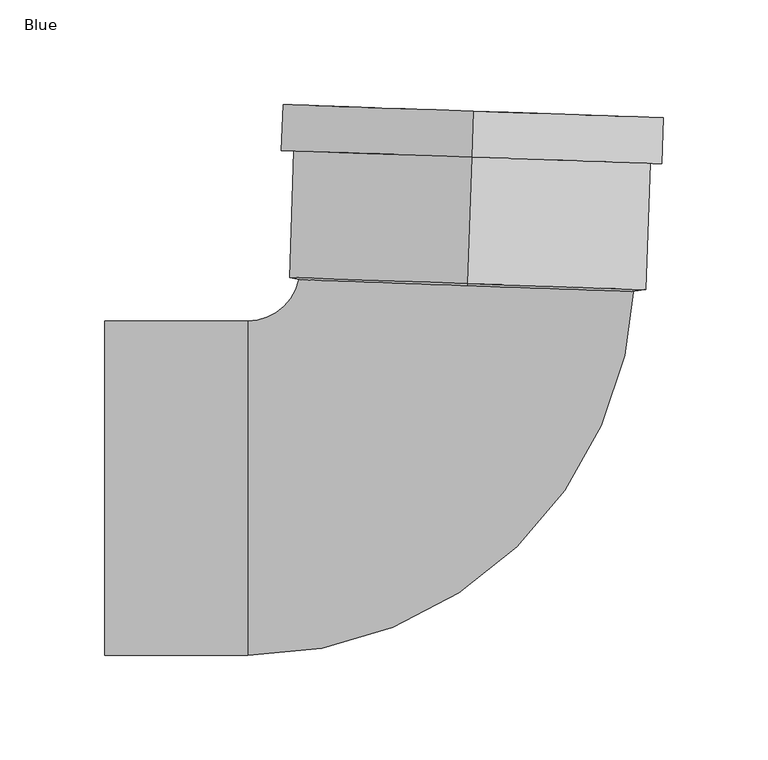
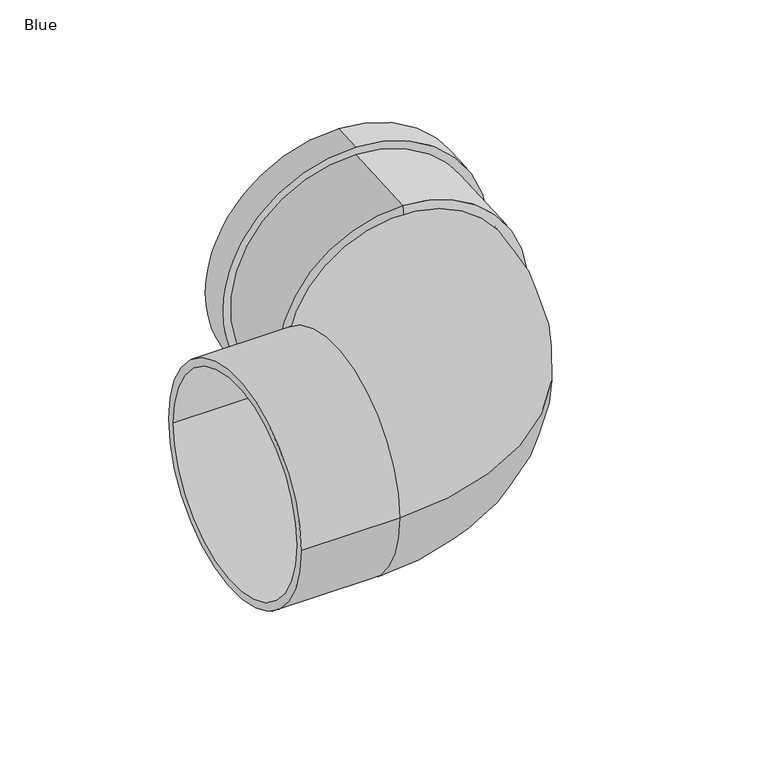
"""IFC4 building model written with IfcOpenShell, lengths in millimetres: pipe fitting geometry, AWADUKT PP SN10 Bend : Blue."""

import ifcopenshell
import ifcopenshell.guid

model = None  # the IFC model being written
_history = None  # IfcOwnerHistory: only IFC2X3 demands one
_inside = {}  # id of a spatial element -> (the spatial element, [elements in it])
_under = {}  # id of a project, library or spatial element -> (it, [spatial elements below it])
_declared = {}  # id of a project -> (the project, [libraries it declares])
_typed = {}  # id of a type object -> (the type object, [elements of that type])
_made_of = {}  # id of a material, layer set ... -> (it, [elements and type objects made of it])


def new_model(schema):
    """Start an empty IFC model of exactly this schema.

    Asked for "IFC4X3", IfcOpenShell would pick the latest addendum, in which some entities
    have other attributes; the version numbers below select the first issue.
    IFC2X3 requires an IfcOwnerHistory on every rooted entity: one is made here for all.
    """
    global model, _history
    if schema == "IFC4X3":
        model = ifcopenshell.file(schema_version=(4, 3, 0, 0))
    else:
        model = ifcopenshell.file(schema=schema)
    _inside.clear()
    _under.clear()
    _declared.clear()
    _typed.clear()
    _made_of.clear()
    _history = None
    if model.schema == "IFC2X3":
        org = make("IfcOrganization", Name="unknown")
        user = make(
            "IfcPersonAndOrganization",
            ThePerson=make("IfcPerson", FamilyName="unknown"),
            TheOrganization=org,
        )
        app = make(
            "IfcApplication",
            ApplicationDeveloper=org,
            Version="unknown",
            ApplicationFullName="unknown",
            ApplicationIdentifier="unknown",
        )
        _history = make(
            "IfcOwnerHistory",
            OwningUser=user,
            OwningApplication=app,
            ChangeAction="ADDED",
            CreationDate=0,
        )
    return model


def make(cls, **values):
    """One entity of the class cls with the attributes given. An attribute that is None is left unset."""
    return model.create_entity(
        cls, **{name: value for name, value in values.items() if value is not None}
    )


def rooted(cls, **values):
    """An entity with a GlobalId (a new one), such as an element, a storey or a relation."""
    return make(cls, GlobalId=ifcopenshell.guid.new(), OwnerHistory=_history, **values)


def si_unit(unit_type, name, prefix=None):
    """IfcSIUnit, for example si_unit("LENGTHUNIT", "METRE", prefix="MILLI")."""
    return make("IfcSIUnit", UnitType=unit_type, Prefix=prefix, Name=name)


def assignment(units):
    """IfcUnitAssignment: the units of a project."""
    return None if units is None else make("IfcUnitAssignment", Units=units)


def point(xyz):
    """IfcCartesianPoint."""
    return None if xyz is None else make("IfcCartesianPoint", Coordinates=xyz)


def direction(xyz):
    """IfcDirection."""
    return None if xyz is None else make("IfcDirection", DirectionRatios=xyz)


def frame(location, z_axis=None, x_axis=None):
    """IfcAxis2Placement3D, a coordinate frame: its origin and axes. An axis left out is left unset."""
    return make(
        "IfcAxis2Placement3D",
        Location=point(location),
        Axis=direction(z_axis),
        RefDirection=direction(x_axis),
    )


def origin():
    """The frame at (0, 0, 0) with its axes left unset."""
    return frame((0.0, 0.0, 0.0))


def place(relative_to, where):
    """IfcLocalPlacement: puts the frame where relative to a parent placement (None: the world)."""
    return make(
        "IfcLocalPlacement", PlacementRelTo=relative_to, RelativePlacement=where
    )


def context(
    kind, dimensions, precision=None, world=None, true_north=None, identifier=None
):
    """IfcGeometricRepresentationContext, for example the 3D "Model" context."""
    return make(
        "IfcGeometricRepresentationContext",
        ContextIdentifier=identifier,
        ContextType=kind,
        CoordinateSpaceDimension=dimensions,
        Precision=precision,
        WorldCoordinateSystem=world,
        TrueNorth=true_north,
    )


def project(units=None, contexts=None):
    """IfcProject with its units and contexts."""
    return rooted(
        "IfcProject",
        Name="project",
        RepresentationContexts=contexts,
        UnitsInContext=assignment(units),
    )


def spatial(cls, under=None, at=None, **own):
    """A site, building, storey or space (cls), placed at a placement, below another one or the project."""
    s = rooted(cls, ObjectPlacement=at, **own)
    if under is not None:
        _under.setdefault(under.id(), (under, []))[1].append(s)
    return s


def polyline(points):
    """IfcPolyline through the points."""
    return make("IfcPolyline", Points=[point(p) for p in points])


def circle_curve(where, radius):
    """IfcCircle in the frame where."""
    return make("IfcCircle", Position=where, Radius=radius)


def ellipse_curve(where, semi_axis1, semi_axis2):
    """IfcEllipse in the frame where."""
    return make(
        "IfcEllipse", Position=where, SemiAxis1=semi_axis1, SemiAxis2=semi_axis2
    )


def trimmed(basis, trim1, trim2, sense, master):
    """IfcTrimmedCurve: the piece of a basis curve between two trims."""
    return make(
        "IfcTrimmedCurve",
        BasisCurve=basis,
        Trim1=trim1,
        Trim2=trim2,
        SenseAgreement=sense,
        MasterRepresentation=master,
    )


def shape(context_of_items, identifier, shape_type, items):
    """IfcShapeRepresentation: the items that make up one representation, for example the "Body"."""
    return make(
        "IfcShapeRepresentation",
        ContextOfItems=context_of_items,
        RepresentationIdentifier=identifier,
        RepresentationType=shape_type,
        Items=items,
    )


def source(mapping_origin, context_of_items, identifier, shape_type, items):
    """IfcRepresentationMap: a shape defined once, which mapped items show again and again."""
    return make(
        "IfcRepresentationMap",
        MappingOrigin=mapping_origin,
        MappedRepresentation=shape(context_of_items, identifier, shape_type, items),
    )


def transform(
    local_origin,
    x_axis=None,
    y_axis=None,
    z_axis=None,
    scale=None,
    scale2=None,
    scale3=None,
    uniform=True,
):
    """IfcCartesianTransformationOperator3D, or its non-uniform kind. x_axis, y_axis, z_axis: its Axis1, 2, 3."""
    if uniform:
        return make(
            "IfcCartesianTransformationOperator3D",
            Axis1=direction(x_axis),
            Axis2=direction(y_axis),
            LocalOrigin=point(local_origin),
            Scale=scale,
            Axis3=direction(z_axis),
        )
    return make(
        "IfcCartesianTransformationOperator3DnonUniform",
        Axis1=direction(x_axis),
        Axis2=direction(y_axis),
        LocalOrigin=point(local_origin),
        Scale=scale,
        Axis3=direction(z_axis),
        Scale2=scale2,
        Scale3=scale3,
    )


def mapped(mapping_source, mapping_target):
    """IfcMappedItem: shows the shape of a source again, moved by a transform."""
    return make(
        "IfcMappedItem", MappingSource=mapping_source, MappingTarget=mapping_target
    )


def made_of(thing, what):
    """Note that an element or type object is made of a material, layer set ...; save() writes the relation."""
    if what is not None:
        _made_of.setdefault(what.id(), (what, []))[1].append(thing)
    return thing


def element(
    cls,
    number,
    at=None,
    inside=None,
    cuts=None,
    type_object=None,
    material=None,
    context=None,
    identifier="Body",
    shape_type=None,
    held_by="IfcProductDefinitionShape",
    body=None,
    shapes=None,
    **own,
):
    """One element of the class cls, such as IfcWall. Its Tag is "e" and its number.

    at: its placement. inside: the storey or other place that contains it. cuts: it is an
    opening in that element (IfcRelVoidsElement). A single representation is given by context,
    identifier, shape_type and body (its items); several are given by shapes. held_by: the class
    of the entity that holds the representations. save() writes the other relations.
    """
    e = rooted(cls, Tag="e%d" % number, ObjectPlacement=at, **own)
    if body is not None:
        shapes = [shape(context, identifier, shape_type, body)]
    if shapes is not None:
        e.Representation = make(held_by, Representations=shapes)
    if inside is not None:
        _inside.setdefault(inside.id(), (inside, []))[1].append(e)
    if cuts is not None:
        rooted(
            "IfcRelVoidsElement", RelatingBuildingElement=cuts, RelatedOpeningElement=e
        )
    if type_object is not None:
        _typed.setdefault(type_object.id(), (type_object, []))[1].append(e)
    return made_of(e, material)


def aggregate(whole, parts):
    """IfcRelAggregates: a whole, such as a stair, and the parts it consists of."""
    return rooted("IfcRelAggregates", RelatingObject=whole, RelatedObjects=parts)


def save(model, path):
    """Write the relations noted so far, then the file.

    IfcRelAggregates (storeys below a building ...), IfcRelContainedInSpatialStructure (elements
    in a storey), IfcRelDefinesByType, IfcRelAssociatesMaterial and IfcRelDeclares: one each for
    every whole, place, type object, material and project.
    """
    for whole, parts in _under.values():
        aggregate(whole, parts)
    for where, things in _inside.values():
        rooted(
            "IfcRelContainedInSpatialStructure",
            RelatedElements=things,
            RelatingStructure=where,
        )
    for kind, things in _typed.values():
        rooted("IfcRelDefinesByType", RelatedObjects=things, RelatingType=kind)
    for what, things in _made_of.values():
        rooted("IfcRelAssociatesMaterial", RelatedObjects=things, RelatingMaterial=what)
    for by, libraries in _declared.values():
        rooted("IfcRelDeclares", RelatingContext=by, RelatedDefinitions=libraries)
    model.write(path)


def plane_surface(at):
    """IfcPlane: the flat surface through the origin of the frame at, square to its z axis."""
    return make("IfcPlane", Position=at)


def cylinder_surface(at, radius):
    """IfcCylindricalSurface: all points at the distance radius from the z axis of the frame at."""
    return make("IfcCylindricalSurface", Position=at, Radius=radius)


def revolved_surface(curve, axis_point, axis_direction):
    """IfcSurfaceOfRevolution: the curve turned about the line through axis_point along axis_direction."""
    return make(
        "IfcSurfaceOfRevolution",
        SweptCurve=make("IfcArbitraryOpenProfileDef", ProfileType="CURVE", Curve=curve),
        AxisPosition=make("IfcAxis1Placement", Location=point(axis_point), Axis=direction(axis_direction)),
    )


def advanced_brep(points, edges, surfaces, faces):
    """IfcAdvancedBrep: a solid bounded by faces that lie on surfaces and meet in shared edges.

    An edge is (start, end): straight between two places in points (the first is 0);
    or (start, end, curve); or (start, end, curve, False) where it runs against its curve.
    A face is (place in surfaces, loops), or (place, loops, False) where it looks against
    its surface's normal. A loop lists edges by number (the first is 1), with a minus sign
    where the edge is run from its end to its start. The first loop is the outer one.
    """
    corners = [point(p) for p in points]
    vertices = [make("IfcVertexPoint", VertexGeometry=c) for c in corners]
    made = []
    for start, end, *more in edges:
        made.append(
            make(
                "IfcEdgeCurve",
                EdgeStart=vertices[start],
                EdgeEnd=vertices[end],
                EdgeGeometry=more[0] if more else make("IfcPolyline", Points=[corners[start], corners[end]]),
                SameSense=more[1] if len(more) > 1 else True,
            )
        )
    hull = []
    for where, loops, *sense in faces:
        bounds = []
        for j, loop in enumerate(loops):
            ring = [make("IfcOrientedEdge", EdgeElement=made[abs(k) - 1], Orientation=k > 0) for k in loop]
            bounds.append(
                make(
                    "IfcFaceOuterBound" if j == 0 else "IfcFaceBound",
                    Bound=make("IfcEdgeLoop", EdgeList=ring),
                    Orientation=True,
                )
            )
        hull.append(make("IfcAdvancedFace", Bounds=bounds, FaceSurface=surfaces[where], SameSense=sense[0] if sense else True))
    return make("IfcAdvancedBrep", Outer=make("IfcClosedShell", CfsFaces=hull))


def blue_55e6ac91(model_context):
    return source(origin(), model_context, "Body", "AdvancedBrep", [
        advanced_brep(
        [(5.5315702, 158.4034461, 85.5), (5.5315702, 158.4034461, -85.5), (3.4185715, 97.895079, -85.5), (3.4185715, 97.895079, 85.5), (6.2993592, 180.3900443, 91.0), (6.2993592, 180.3900443, -91.0), (5.5315702, 158.4034461, -91.0), (5.5315702, 158.4034461, 91.0), (6.1074119, 174.8933947, 80.0), (6.1074119, 174.8933947, -80.0), (6.2993592, 180.3900443, -80.0), (6.2993592, 180.3900443, 80.0), (5.7235175, 163.9000956, 85.5), (5.7235175, 163.9000956, -85.5), (6.1074119, 174.8933947, -85.5), (6.1074119, 174.8933947, 85.5), (3.5796343, 102.5073156, 80.0), (3.5796343, 102.5073156, -80.0), (5.7235175, 163.9000956, -80.0), (5.7235175, 163.9000956, 80.0), (3.5457889, 101.538108, 74.5), (3.5457889, 101.538108, -74.5), (3.3508805, 95.9566638, 74.5), (3.3508805, 95.9566638, -74.5)],
        [
            (0, 1, circle_curve(frame((5.5315702, 158.4034461, 0.0), z_axis=(-0.034899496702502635, -0.9993908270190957, 0.0), x_axis=(0.0, 0.0, -1.0)), 85.5)),
            (1, 2),
            (2, 3, circle_curve(frame((3.4185715, 97.895079, 0.0), z_axis=(0.034899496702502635, 0.9993908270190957, 0.0), x_axis=(0.0, 0.0, -1.0)), 85.5)),
            (3, 0),
            (4, 5, circle_curve(frame((6.2993592, 180.3900443, 0.0), z_axis=(-0.034899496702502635, -0.9993908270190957, 0.0), x_axis=(0.0, 0.0, -1.0)), 91.0)),
            (5, 6),
            (6, 7, circle_curve(frame((5.5315702, 158.4034461, 0.0), z_axis=(0.034899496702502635, 0.9993908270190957, 0.0), x_axis=(0.0, 0.0, -1.0)), 91.0)),
            (7, 4),
            (8, 9, circle_curve(frame((6.1074119, 174.8933947, 0.0), z_axis=(-0.034899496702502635, -0.9993908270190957, 0.0), x_axis=(0.0, 0.0, -1.0)), 80.0)),
            (9, 10),
            (10, 11, circle_curve(frame((6.2993592, 180.3900443, 0.0), z_axis=(0.034899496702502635, 0.9993908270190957, 0.0), x_axis=(0.0, 0.0, -1.0)), 80.0)),
            (11, 8),
            (12, 13, circle_curve(frame((5.7235175, 163.9000956, 0.0), z_axis=(-0.034899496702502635, -0.9993908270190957, 0.0), x_axis=(0.0, 0.0, -1.0)), 85.5)),
            (13, 14),
            (14, 15, circle_curve(frame((6.1074119, 174.8933947, 0.0), z_axis=(0.034899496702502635, 0.9993908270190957, 0.0), x_axis=(0.0, 0.0, -1.0)), 85.5)),
            (15, 12),
            (16, 17, circle_curve(frame((3.5796343, 102.5073156, 0.0), z_axis=(-0.034899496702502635, -0.9993908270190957, 0.0), x_axis=(0.0, 0.0, -1.0)), 80.0)),
            (17, 18),
            (18, 19, circle_curve(frame((5.7235175, 163.9000956, 0.0), z_axis=(0.034899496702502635, 0.9993908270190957, 0.0), x_axis=(0.0, 0.0, -1.0)), 80.0)),
            (19, 16),
            (20, 21, circle_curve(frame((3.5457889, 101.538108, 0.0), z_axis=(-0.034899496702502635, -0.9993908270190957, 0.0), x_axis=(0.0, 0.0, -1.0)), 74.5)),
            (21, 17),
            (16, 20),
            (22, 23, circle_curve(frame((3.3508805, 95.9566638, 0.0), z_axis=(-0.034899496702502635, -0.9993908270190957, 0.0), x_axis=(0.0, 0.0, -1.0)), 74.5)),
            (23, 21),
            (20, 22),
            (2, 23),
            (22, 3),
            (1, 0, circle_curve(frame((5.5315702, 158.4034461, 0.0), z_axis=(-0.034899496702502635, -0.9993908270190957, 0.0), x_axis=(0.0, 0.0, 1.0)), 85.5)),
            (3, 2, circle_curve(frame((3.4185715, 97.895079, 0.0), z_axis=(0.034899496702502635, 0.9993908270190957, 0.0), x_axis=(0.0, 0.0, 1.0)), 85.5)),
            (6, 7, circle_curve(frame((5.5315702, 158.4034461, 0.0), z_axis=(-0.034899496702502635, -0.9993908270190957, 0.0), x_axis=(0.0, 0.0, 1.0)), 91.0)),
            (5, 4, circle_curve(frame((6.2993592, 180.3900443, 0.0), z_axis=(-0.034899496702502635, -0.9993908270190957, 0.0), x_axis=(0.0, 0.0, 1.0)), 91.0)),
            (10, 11, circle_curve(frame((6.2993592, 180.3900443, 0.0), z_axis=(-0.034899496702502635, -0.9993908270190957, 0.0), x_axis=(0.0, 0.0, 1.0)), 80.0)),
            (9, 8, circle_curve(frame((6.1074119, 174.8933947, 0.0), z_axis=(-0.034899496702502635, -0.9993908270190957, 0.0), x_axis=(0.0, 0.0, 1.0)), 80.0)),
            (14, 15, circle_curve(frame((6.1074119, 174.8933947, 0.0), z_axis=(-0.034899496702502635, -0.9993908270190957, 0.0), x_axis=(0.0, 0.0, 1.0)), 85.5)),
            (13, 12, circle_curve(frame((5.7235175, 163.9000956, 0.0), z_axis=(-0.034899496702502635, -0.9993908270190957, 0.0), x_axis=(0.0, 0.0, 1.0)), 85.5)),
            (18, 19, circle_curve(frame((5.7235175, 163.9000956, 0.0), z_axis=(-0.034899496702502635, -0.9993908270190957, 0.0), x_axis=(0.0, 0.0, 1.0)), 80.0)),
            (17, 16, circle_curve(frame((3.5796343, 102.5073156, 0.0), z_axis=(-0.034899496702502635, -0.9993908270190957, 0.0), x_axis=(0.0, 0.0, 1.0)), 80.0)),
            (21, 20, circle_curve(frame((3.5457889, 101.538108, 0.0), z_axis=(-0.034899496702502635, -0.9993908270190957, 0.0), x_axis=(0.0, 0.0, 1.0)), 74.5)),
            (23, 22, circle_curve(frame((3.3508805, 95.9566638, 0.0), z_axis=(-0.034899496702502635, -0.9993908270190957, 0.0), x_axis=(0.0, 0.0, 1.0)), 74.5)),
        ],
        [
            cylinder_surface(frame((3.5457889, 101.538108, 0.0), z_axis=(0.034899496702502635, 0.9993908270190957, 0.0), x_axis=(0.0, 0.0, -1.0)), 85.5),
            cylinder_surface(frame((3.5457889, 101.538108, 0.0), z_axis=(0.034899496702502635, 0.9993908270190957, 0.0), x_axis=(0.0, 0.0, -1.0)), 91.0),
            revolved_surface(polyline([(6.299359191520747, 180.3900443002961, -80.0), (6.107411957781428, 174.89339469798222, -80.0)]), (3.5457889, 101.538108, 0.0), (0.034899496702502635, 0.9993908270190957, 0.0)),
            revolved_surface(polyline([(6.107411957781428, 174.89339469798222, -85.5), (5.723517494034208, 163.90009560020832, -85.5)]), (3.5457889, 101.538108, 0.0), (0.034899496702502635, 0.9993908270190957, 0.0)),
            revolved_surface(polyline([(5.723517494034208, 163.90009560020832, -80.0), (3.579634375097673, 102.50731559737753, -80.0)]), (3.5457889, 101.538108, 0.0), (0.034899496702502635, 0.9993908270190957, 0.0)),
            revolved_surface(polyline([(3.5796343, 102.5073156, -80.0), (3.5457889, 101.538108, -74.5)]), (3.5457889, 101.538108, 0.0), (0.034899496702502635, 0.9993908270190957, 0.0)),
            revolved_surface(polyline([(3.5457889, 101.538108, -74.5), (3.3508805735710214, 95.95666379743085, -74.5)]), (3.5457889, 101.538108, 0.0), (0.034899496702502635, 0.9993908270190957, 0.0)),
            revolved_surface(polyline([(3.3508805, 95.9566638, -74.5), (3.4185715, 97.895079, -85.5)]), (3.5457889, 101.538108, 0.0), (0.034899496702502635, 0.9993908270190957, 0.0)),
            cylinder_surface(frame((3.5457889, 101.538108, 0.0), z_axis=(0.034899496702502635, 0.9993908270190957, 0.0), x_axis=(0.0, 0.0, 1.0)), 85.5),
            plane_surface(frame((5.5315702, 158.4034461, 0.0), z_axis=(-0.034899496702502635, -0.9993908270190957, 0.0), x_axis=(0.0, 0.0, 1.0))),
            cylinder_surface(frame((3.5457889, 101.538108, 0.0), z_axis=(0.034899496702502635, 0.9993908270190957, 0.0), x_axis=(0.0, 0.0, 1.0)), 91.0),
            plane_surface(frame((6.2993592, 180.3900443, 0.0), z_axis=(0.034899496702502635, 0.9993908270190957, 0.0), x_axis=(0.0, 0.0, 1.0))),
            revolved_surface(polyline([(6.299359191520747, 180.3900443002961, 80.0), (6.107411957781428, 174.89339469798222, 80.0)]), (3.5457889, 101.538108, 0.0), (0.034899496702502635, 0.9993908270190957, 0.0)),
            plane_surface(frame((6.1074119, 174.8933947, 0.0), z_axis=(-0.034899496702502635, -0.9993908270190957, 0.0), x_axis=(0.0, 0.0, 1.0))),
            revolved_surface(polyline([(6.107411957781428, 174.89339469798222, 85.5), (5.723517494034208, 163.90009560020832, 85.5)]), (3.5457889, 101.538108, 0.0), (0.034899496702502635, 0.9993908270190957, 0.0)),
            plane_surface(frame((5.7235175, 163.9000956, 0.0), z_axis=(0.034899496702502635, 0.9993908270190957, 0.0), x_axis=(0.0, 0.0, 1.0))),
            revolved_surface(polyline([(5.723517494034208, 163.90009560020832, 80.0), (3.579634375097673, 102.50731559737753, 80.0)]), (3.5457889, 101.538108, 0.0), (0.034899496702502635, 0.9993908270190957, 0.0)),
            revolved_surface(polyline([(3.5796343, 102.5073156, 80.0), (3.5457889, 101.538108, 74.5)]), (3.5457889, 101.538108, 0.0), (0.034899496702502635, 0.9993908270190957, 0.0)),
            revolved_surface(polyline([(3.5457889, 101.538108, 74.5), (3.3508805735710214, 95.95666379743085, 74.5)]), (3.5457889, 101.538108, 0.0), (0.034899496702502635, 0.9993908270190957, 0.0)),
            revolved_surface(polyline([(3.3508805, 95.9566638, 74.5), (3.4185715, 97.895079, 85.5)]), (3.5457889, 101.538108, 0.0), (0.034899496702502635, 0.9993908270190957, 0.0)),
        ],
        [
            (0, [[1, 2, 3, 4]]),
            (1, [[5, 6, 7, 8]]),
            (2, [[9, 10, 11, 12]]),
            (3, [[13, 14, 15, 16]]),
            (4, [[17, 18, 19, 20]]),
            (5, [[21, 22, -17, 23]]),
            (6, [[24, 25, -21, 26]]),
            (7, [[-3, 27, -24, 28]]),
            (8, [[29, -4, 30, -2]]),
            (9, [[31, -7], [-29, -1]]),
            (10, [[32, -8, -31, -6]]),
            (11, [[-32, -5], [33, -11]]),
            (12, [[34, -12, -33, -10]]),
            (13, [[35, -15], [-34, -9]]),
            (14, [[36, -16, -35, -14]]),
            (15, [[-36, -13], [37, -19]]),
            (16, [[38, -20, -37, -18]]),
            (17, [[39, -23, -38, -22]]),
            (18, [[40, -26, -39, -25]]),
            (19, [[-30, -28, -40, -27]]),
        ],
    ),
        advanced_brep(
        [(-170.0, -80.0, 0.0), (-170.0, 80.0, 0.0), (-170.0, -74.5, 0.0), (-170.0, 74.5, 0.0), (83.497055, 98.7461483, 0.0), (-76.4054773, 104.3300678, 0.0), (78.0004055, 98.9380955, 0.0), (-70.9088277, 104.1381205, 0.0), (-101.6, -74.5, 0.0), (-101.6, 74.5, 0.0), (-101.6, -80.0, 0.0), (-101.6, 80.0, 0.0)],
        [
            (0, 1, circle_curve(frame((-170.0, 0.0, 0.0), z_axis=(-1.0, 0.0, 0.0), x_axis=(0.0, 1.0, 0.0)), 80.0)),
            (1, 0, circle_curve(frame((-170.0, 0.0, 0.0), z_axis=(-1.0, 0.0, 0.0), x_axis=(0.0, 1.0, 0.0)), 80.0)),
            (2, 3, circle_curve(frame((-170.0, 0.0, 0.0), z_axis=(1.0, 0.0, 0.0), x_axis=(0.0, 1.0, 0.0)), 74.5)),
            (3, 2, circle_curve(frame((-170.0, 0.0, 0.0), z_axis=(1.0, 0.0, 0.0), x_axis=(0.0, 1.0, 0.0)), 74.5)),
            (4, 5, circle_curve(frame((3.5457889, 101.538108, 0.0), z_axis=(0.03489949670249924, 0.9993908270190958, 0.0), x_axis=(-0.9993908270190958, 0.03489949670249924, 0.0)), 80.0)),
            (5, 4, circle_curve(frame((3.5457889, 101.538108, 0.0), z_axis=(0.03489949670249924, 0.9993908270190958, 0.0), x_axis=(-0.9993908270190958, 0.03489949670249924, 0.0)), 80.0)),
            (6, 7, circle_curve(frame((3.5457889, 101.538108, 0.0), z_axis=(-0.03489949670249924, -0.9993908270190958, 0.0), x_axis=(-0.9993908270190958, 0.03489949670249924, 0.0)), 74.5)),
            (7, 6, circle_curve(frame((3.5457889, 101.538108, 0.0), z_axis=(-0.03489949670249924, -0.9993908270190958, 0.0), x_axis=(-0.9993908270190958, 0.03489949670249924, 0.0)), 74.5)),
            (2, 8),
            (8, 9, circle_curve(frame((-101.6, 0.0, 0.0), z_axis=(1.0, 0.0, 0.0), x_axis=(0.0, 1.0, 0.0)), 74.5)),
            (9, 3),
            (9, 8, circle_curve(frame((-101.6, 0.0, 0.0), z_axis=(1.0, 0.0, 0.0), x_axis=(0.0, 1.0, 0.0)), 74.5)),
            (0, 10),
            (10, 11, circle_curve(frame((-101.6, 0.0, 0.0), z_axis=(-1.0, 0.0, 0.0), x_axis=(0.0, 1.0, 0.0)), 80.0)),
            (11, 1),
            (11, 10, circle_curve(frame((-101.6, 0.0, 0.0), z_axis=(-1.0, 0.0, 0.0), x_axis=(0.0, 1.0, 0.0)), 80.0)),
            (7, 9, circle_curve(frame((-101.6, 105.2098799, 0.0), z_axis=(0.0, 0.0, -1.0), x_axis=(0.0, -1.0, 0.0)), 30.7098799)),
            (8, 6, circle_curve(frame((-101.6, 105.2098799, 0.0), z_axis=(0.0, 0.0, 1.0), x_axis=(0.0, -1.0, 0.0)), 179.7098799)),
            (5, 11, circle_curve(frame((-101.6, 105.2098799, 0.0), z_axis=(0.0, 0.0, -1.0), x_axis=(0.0, -1.0, 0.0)), 25.2098799)),
            (10, 4, circle_curve(frame((-101.6, 105.2098799, 0.0), z_axis=(0.0, 0.0, 1.0), x_axis=(0.0, -1.0, 0.0)), 185.2098799)),
        ],
        [
            plane_surface(frame((-170.0, 0.0, 0.0), z_axis=(-1.0, 0.0, 0.0), x_axis=(0.0, 0.0, 1.0))),
            plane_surface(frame((3.5457889, 101.538108, 0.0), z_axis=(0.03489949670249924, 0.9993908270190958, 0.0), x_axis=(0.0, 0.0, 1.0))),
            revolved_surface(polyline([(-101.6, 74.5, 0.0), (-170.0, 74.5, 0.0)]), (-170.0, 0.0, 0.0), (1.0, 0.0, 0.0)),
            cylinder_surface(frame((-170.0, 0.0, 0.0), z_axis=(-1.0, 0.0, 0.0), x_axis=(0.0, 1.0, 0.0)), 80.0),
            revolved_surface(trimmed(ellipse_curve(frame((-101.6, 0.0, 0.0), z_axis=(1.0, 0.0, 0.0), x_axis=(0.0, 1.0, 0.0)), 74.5, 74.5), [point((-101.6, -74.5, 0.0))], [point((-101.6, 74.5, 0.0))], True, "CARTESIAN"), (-101.6, 105.2098799, 0.0), (0.0, 0.0, 1.0)),
            revolved_surface(trimmed(ellipse_curve(frame((-101.6, 0.0, 0.0), z_axis=(1.0, 0.0, 0.0), x_axis=(0.0, 1.0, 0.0)), 74.5, 74.5), [point((-101.6, 74.5, 0.0))], [point((-101.6, -74.5, 0.0))], True, "CARTESIAN"), (-101.6, 105.2098799, 0.0), (0.0, 0.0, 1.0)),
            revolved_surface(trimmed(ellipse_curve(frame((-101.6, 0.0, 0.0), z_axis=(-1.0, 0.0, 0.0), x_axis=(0.0, 1.0, 0.0)), 80.0, 80.0), [point((-101.6, -80.0, 0.0))], [point((-101.6, 80.0, 0.0))], True, "CARTESIAN"), (-101.6, 105.2098799, 0.0), (0.0, 0.0, 1.0)),
            revolved_surface(trimmed(ellipse_curve(frame((-101.6, 0.0, 0.0), z_axis=(-1.0, 0.0, 0.0), x_axis=(0.0, 1.0, 0.0)), 80.0, 80.0), [point((-101.6, 80.0, 0.0))], [point((-101.6, -80.0, 0.0))], True, "CARTESIAN"), (-101.6, 105.2098799, 0.0), (0.0, 0.0, 1.0)),
        ],
        [
            (0, [[1, 2], [3, 4]]),
            (1, [[5, 6], [7, 8]]),
            (2, [[-3, 9, 10, 11]]),
            (2, [[-4, -11, 12, -9]]),
            (3, [[-1, 13, 14, 15]]),
            (3, [[-2, -15, 16, -13]]),
            (4, [[17, -10, 18, -8]]),
            (5, [[-18, -12, -17, -7]]),
            (6, [[19, -14, 20, -6]]),
            (7, [[-20, -16, -19, -5]]),
        ],
    ),
    ])


if __name__ == "__main__":
    model = new_model("IFC4")
    model_context = context("Model", 3, world=origin())
    ifc_project = project(units=[si_unit("LENGTHUNIT", "METRE", prefix="MILLI")], contexts=[model_context])
    site = spatial("IfcSite", under=ifc_project)
    building = spatial("IfcBuilding", under=site)
    placement = place(None, origin())
    blue_shape = blue_55e6ac91(model_context)
    element("IfcPipeFitting", 1, ObjectType="AWADUKT PP SN10 Bend : Blue", at=placement, inside=building, context=model_context, shape_type="MappedRepresentation", body=[
        mapped(blue_shape, transform((0.0, 0.0, 0.0), x_axis=(1.0, 0.0, 0.0), y_axis=(0.0, 1.0, 0.0), z_axis=(0.0, 0.0, 1.0))),
    ])
    save(model, "model.ifc")
